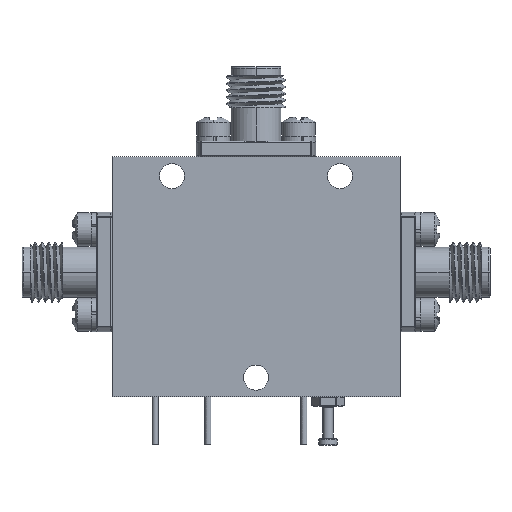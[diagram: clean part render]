
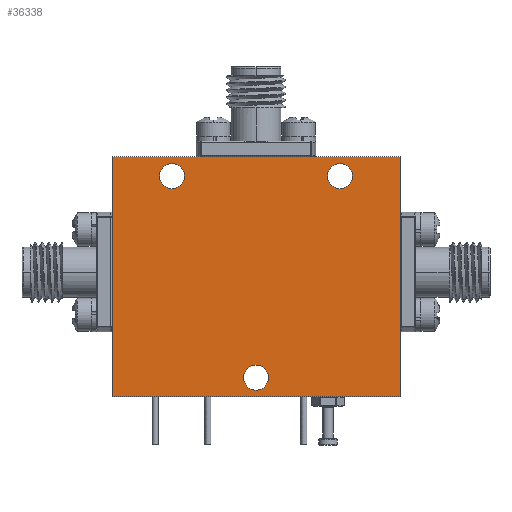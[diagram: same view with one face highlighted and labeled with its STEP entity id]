
A CAD part, front view. The second image highlights one B-rep face of the part: STEP entity #36338.
In plain terms, the highlighted planar face has unit normal (0, -1, 0).
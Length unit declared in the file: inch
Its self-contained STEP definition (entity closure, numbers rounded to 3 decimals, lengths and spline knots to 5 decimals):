
#41 = VERTEX_POINT ( 'NONE', #27963 ) ;
#150 = VECTOR ( 'NONE', #54009, 39.37008 ) ;
#164 = CIRCLE ( 'NONE', #10929, 0.052 ) ;
#279 = VECTOR ( 'NONE', #9415, 39.37008 ) ;
#560 = ORIENTED_EDGE ( 'NONE', *, *, #14588, .F. ) ;
#951 = CARTESIAN_POINT ( 'NONE',  ( 0., -0.5, -0.472 ) ) ;
#1203 = EDGE_CURVE ( 'NONE', #41, #12078, #21885, .T. ) ;
#1986 = CARTESIAN_POINT ( 'NONE',  ( -0.6, -0.5, -0.5 ) ) ;
#2246 = FACE_BOUND ( 'NONE', #28464, .T. ) ;
#2365 = ORIENTED_EDGE ( 'NONE', *, *, #28073, .F. ) ;
#2440 = ORIENTED_EDGE ( 'NONE', *, *, #36680, .T. ) ;
#2701 = AXIS2_PLACEMENT_3D ( 'NONE', #15209, #11290, #53754 ) ;
#2716 = DIRECTION ( 'NONE',  ( 0., 1., 0. ) ) ;
#2872 = DIRECTION ( 'NONE',  ( 0., 1., 0. ) ) ;
#3283 = CARTESIAN_POINT ( 'NONE',  ( 0.6, -0.5, 0.5 ) ) ;
#3603 = EDGE_CURVE ( 'NONE', #31948, #28119, #15762, .T. ) ;
#3774 = VERTEX_POINT ( 'NONE', #951 ) ;
#3863 = CARTESIAN_POINT ( 'NONE',  ( -0.35, -0.5, 0.368 ) ) ;
#4027 = VECTOR ( 'NONE', #49272, 39.37008 ) ;
#5000 = AXIS2_PLACEMENT_3D ( 'NONE', #30048, #8108, #25823 ) ;
#5493 = CIRCLE ( 'NONE', #34207, 0.052 ) ;
#6968 = CARTESIAN_POINT ( 'NONE',  ( 0., -0.5, -0.42 ) ) ;
#7442 = EDGE_LOOP ( 'NONE', ( #2440, #46067 ) ) ;
#7513 = CARTESIAN_POINT ( 'NONE',  ( -0.35, -0.5, 0.42 ) ) ;
#8108 = DIRECTION ( 'NONE',  ( 0., 1., 0. ) ) ;
#8635 = EDGE_CURVE ( 'NONE', #12078, #41, #42273, .T. ) ;
#9415 = DIRECTION ( 'NONE',  ( 1., 0., 0. ) ) ;
#10025 = CIRCLE ( 'NONE', #15397, 0.052 ) ;
#10489 = CARTESIAN_POINT ( 'NONE',  ( -0.35, -0.5, 0.42 ) ) ;
#10695 = CARTESIAN_POINT ( 'NONE',  ( 0., -0.5, -0.42 ) ) ;
#10929 = AXIS2_PLACEMENT_3D ( 'NONE', #7513, #55302, #37613 ) ;
#10979 = DIRECTION ( 'NONE',  ( 0., 0., 1. ) ) ;
#11290 = DIRECTION ( 'NONE',  ( 0., 1., 0. ) ) ;
#12078 = VERTEX_POINT ( 'NONE', #16712 ) ;
#12535 = CARTESIAN_POINT ( 'NONE',  ( -0.6, -0.5, -0.5 ) ) ;
#12808 = ORIENTED_EDGE ( 'NONE', *, *, #8635, .T. ) ;
#13466 = LINE ( 'NONE', #31503, #20075 ) ;
#14588 = EDGE_CURVE ( 'NONE', #28119, #54362, #36030, .T. ) ;
#15209 = CARTESIAN_POINT ( 'NONE',  ( 0.35, -0.5, 0.42 ) ) ;
#15225 = CARTESIAN_POINT ( 'NONE',  ( 0.35, -0.5, 0.42 ) ) ;
#15397 = AXIS2_PLACEMENT_3D ( 'NONE', #6968, #2716, #24385 ) ;
#15762 = LINE ( 'NONE', #46165, #150 ) ;
#16712 = CARTESIAN_POINT ( 'NONE',  ( 0.35, -0.5, 0.472 ) ) ;
#17197 = CARTESIAN_POINT ( 'NONE',  ( 0.6, -0.5, -0.5 ) ) ;
#18315 = EDGE_LOOP ( 'NONE', ( #12808, #47411 ) ) ;
#20075 = VECTOR ( 'NONE', #35167, 39.37008 ) ;
#20952 = AXIS2_PLACEMENT_3D ( 'NONE', #15225, #2872, #28473 ) ;
#21885 = CIRCLE ( 'NONE', #20952, 0.052 ) ;
#24178 = FACE_BOUND ( 'NONE', #18315, .T. ) ;
#24385 = DIRECTION ( 'NONE',  ( 0., 0., 1. ) ) ;
#25823 = DIRECTION ( 'NONE',  ( 0., 0., 1. ) ) ;
#27473 = LINE ( 'NONE', #40441, #279 ) ;
#27963 = CARTESIAN_POINT ( 'NONE',  ( 0.35, -0.5, 0.368 ) ) ;
#28073 = EDGE_CURVE ( 'NONE', #37036, #31948, #27473, .T. ) ;
#28119 = VERTEX_POINT ( 'NONE', #17197 ) ;
#28464 = EDGE_LOOP ( 'NONE', ( #32630, #40176 ) ) ;
#28473 = DIRECTION ( 'NONE',  ( 0., 0., 1. ) ) ;
#29683 = VERTEX_POINT ( 'NONE', #42580 ) ;
#30048 = CARTESIAN_POINT ( 'NONE',  ( 0., -0.5, 0. ) ) ;
#30280 = VERTEX_POINT ( 'NONE', #52458 ) ;
#30552 = ORIENTED_EDGE ( 'NONE', *, *, #3603, .F. ) ;
#31503 = CARTESIAN_POINT ( 'NONE',  ( -0.6, -0.5, -0.5 ) ) ;
#31516 = CARTESIAN_POINT ( 'NONE',  ( -0.6, -0.5, 0.5 ) ) ;
#31865 = DIRECTION ( 'NONE',  ( 0., 0., 1. ) ) ;
#31948 = VERTEX_POINT ( 'NONE', #3283 ) ;
#32184 = ORIENTED_EDGE ( 'NONE', *, *, #52789, .F. ) ;
#32630 = ORIENTED_EDGE ( 'NONE', *, *, #50366, .T. ) ;
#32901 = CIRCLE ( 'NONE', #53522, 0.052 ) ;
#34207 = AXIS2_PLACEMENT_3D ( 'NONE', #10695, #40560, #10979 ) ;
#34632 = EDGE_CURVE ( 'NONE', #39960, #29683, #164, .T. ) ;
#35150 = EDGE_LOOP ( 'NONE', ( #32184, #560, #30552, #2365 ) ) ;
#35167 = DIRECTION ( 'NONE',  ( 0., 0., 1. ) ) ;
#36030 = LINE ( 'NONE', #1986, #4027 ) ;
#36338 = ADVANCED_FACE ( 'NONE', ( #54265, #24178, #40811, #2246 ), #36570, .F. ) ;
#36570 = PLANE ( 'NONE',  #5000 ) ;
#36680 = EDGE_CURVE ( 'NONE', #29683, #39960, #32901, .T. ) ;
#37036 = VERTEX_POINT ( 'NONE', #31516 ) ;
#37613 = DIRECTION ( 'NONE',  ( 0., 0., 1. ) ) ;
#39960 = VERTEX_POINT ( 'NONE', #3863 ) ;
#40176 = ORIENTED_EDGE ( 'NONE', *, *, #50519, .T. ) ;
#40441 = CARTESIAN_POINT ( 'NONE',  ( -0.6, -0.5, 0.5 ) ) ;
#40560 = DIRECTION ( 'NONE',  ( 0., 1., 0. ) ) ;
#40811 = FACE_BOUND ( 'NONE', #7442, .T. ) ;
#42273 = CIRCLE ( 'NONE', #2701, 0.052 ) ;
#42580 = CARTESIAN_POINT ( 'NONE',  ( -0.35, -0.5, 0.472 ) ) ;
#46067 = ORIENTED_EDGE ( 'NONE', *, *, #34632, .T. ) ;
#46165 = CARTESIAN_POINT ( 'NONE',  ( 0.6, -0.5, -0.5 ) ) ;
#47411 = ORIENTED_EDGE ( 'NONE', *, *, #1203, .T. ) ;
#49058 = DIRECTION ( 'NONE',  ( 0., 1., 0. ) ) ;
#49272 = DIRECTION ( 'NONE',  ( -1., 0., 0. ) ) ;
#50366 = EDGE_CURVE ( 'NONE', #30280, #3774, #5493, .T. ) ;
#50519 = EDGE_CURVE ( 'NONE', #3774, #30280, #10025, .T. ) ;
#52458 = CARTESIAN_POINT ( 'NONE',  ( 0., -0.5, -0.368 ) ) ;
#52789 = EDGE_CURVE ( 'NONE', #54362, #37036, #13466, .T. ) ;
#53522 = AXIS2_PLACEMENT_3D ( 'NONE', #10489, #49058, #31865 ) ;
#53754 = DIRECTION ( 'NONE',  ( 0., 0., 1. ) ) ;
#54009 = DIRECTION ( 'NONE',  ( 0., 0., -1. ) ) ;
#54265 = FACE_OUTER_BOUND ( 'NONE', #35150, .T. ) ;
#54362 = VERTEX_POINT ( 'NONE', #12535 ) ;
#55302 = DIRECTION ( 'NONE',  ( 0., 1., 0. ) ) ;
